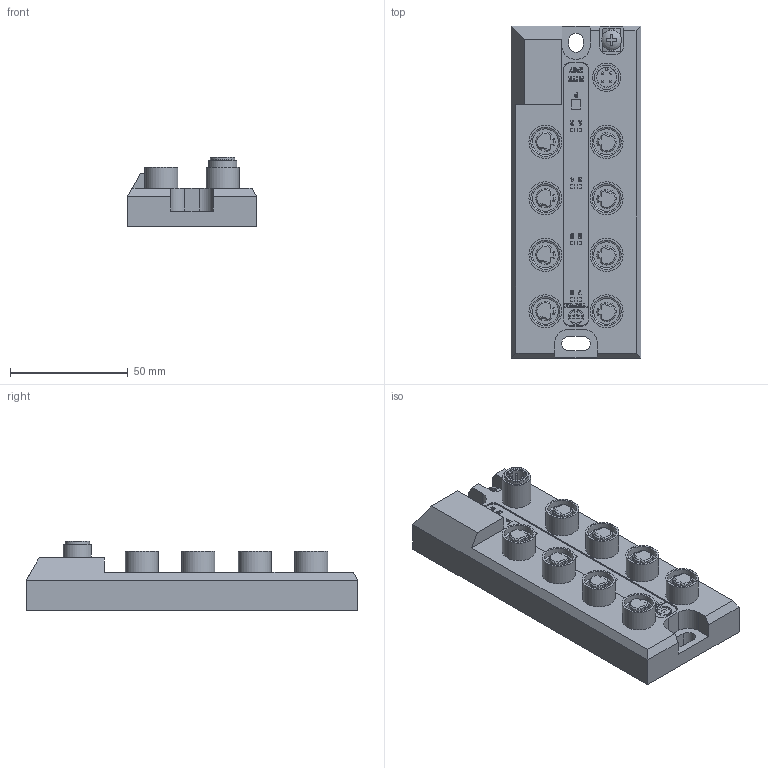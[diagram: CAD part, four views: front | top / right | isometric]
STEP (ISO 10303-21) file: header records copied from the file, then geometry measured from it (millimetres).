
FILE_DESCRIPTION((''),'2;1');
FILE_NAME('K:\01_NAS01\TZDATA01\03_Entwicklung\20_Tenado\01_Projects\TZTD002_NITE-XS\Kundenzeichnungen und Modelle\NITE-XS8\TZCA41160XA_NITE-XS8.stp','2018-05-31T14:28:34',('Autor'),('',''),'Top Systems','StepLib','');
FILE_SCHEMA(('CONFIG_CONTROL_DESIGN'));
Length unit declared in the file: metre
Products named in the file (1): None
Bounding box: 55 x 141 x 29.6 mm (x, y, z)
Volume: 130773.2 mm3; surface area: 31996.4 mm2
Topology: 1 solids, 1 shells, 1203 faces, 3262 edges, 2132 vertices
Faces by surface type: bspline 739, plane 305, cylinder 107, cone 44, sphere 5, extrusion 3
Full cylindrical faces by diameter (mm): 1 x4, 4 x2, 4.3 x1, 8.4 x1, 8.5 x1, 9.6 x1, 10.4 x1, 11 x8, 12 x1, 12.2 x8, 12.35 x8, 14 x8
Entity records: 41901 total; most frequent: CARTESIAN_POINT 16507, ORIENTED_EDGE 6404, EDGE_CURVE 3202, DIRECTION 2858, VERTEX_POINT 2129, B_SPLINE_CURVE_WITH_KNOTS 1540, VECTOR 1400, LINE 1397
